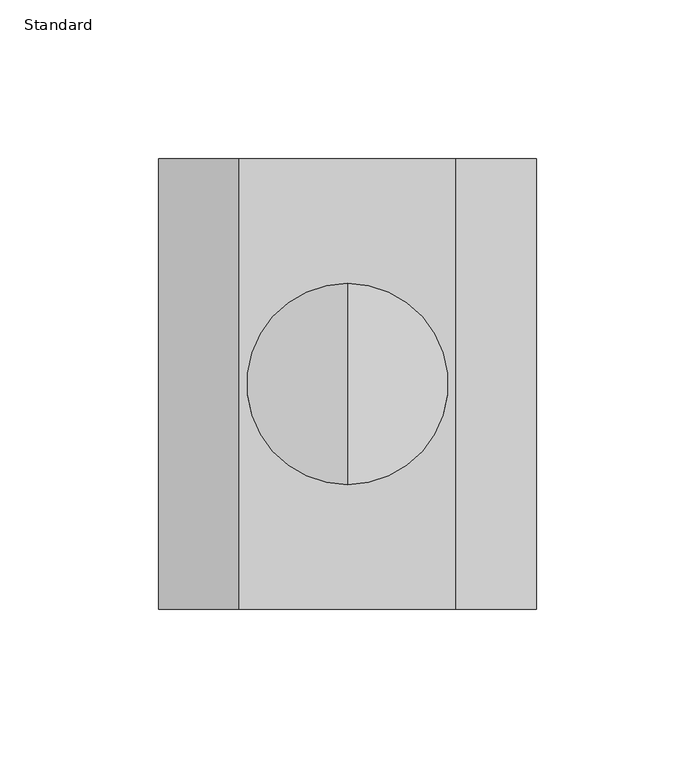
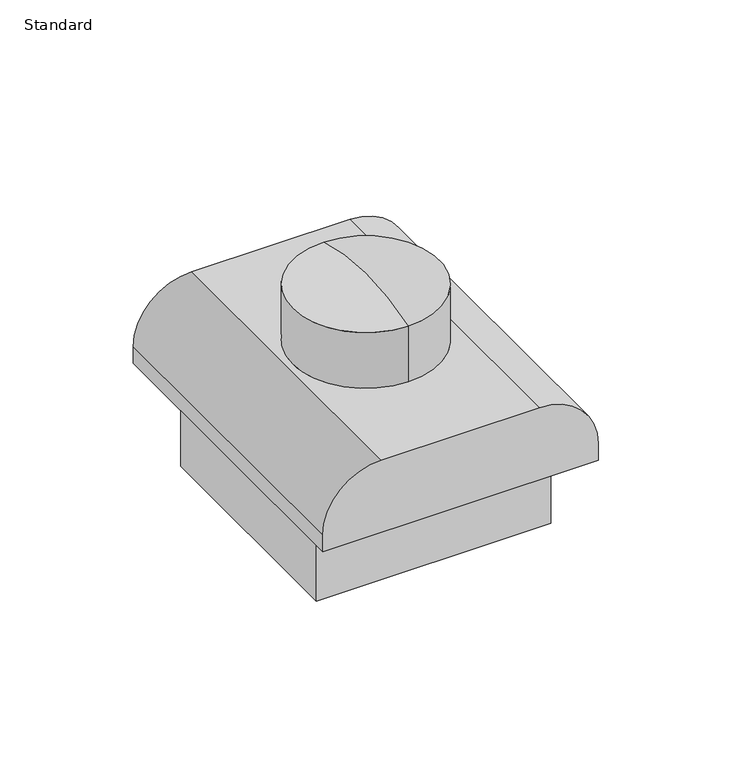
"""IFC4 building model written with IfcOpenShell, lengths in millimetres: alarm geometry, OMAHA - Fire Alarm Speaker Strobe (Single) - Wall Mounted CESAM : Standard."""

from ifc_helpers import new_model, si_unit, point, frame, origin, place, context, project, spatial, circle_curve, ellipse_curve, trimmed, source, transform, mapped, element, save
from ifc_brep_helpers import plane_surface, cylinder_surface, revolved_surface, advanced_brep


def standard_b09f5f23(model_context):
    return source(origin(), model_context, "Body", "AdvancedBrep", [
        advanced_brep(
        [(0.0, 31.75, 58.4116444), (0.0, 31.75, 33.02), (0.0, -31.75, 33.02), (0.0, -31.75, 58.4116444), (0.0, 0.0, 63.5), (59.69, 71.12, 0.0), (-59.69, 71.12, 0.0), (-59.69, 71.12, 7.62), (-34.29, 71.12, 33.02), (34.29, 71.12, 33.02), (59.69, 71.12, 7.62), (59.69, -71.12, 0.0), (59.69, -71.12, 7.62), (34.29, -71.12, 33.02), (-34.29, -71.12, 33.02), (-59.69, -71.12, 7.62), (-59.69, -71.12, 0.0), (50.8, -50.8, 0.0), (50.8, 50.8, 0.0), (-50.8, 50.8, 0.0), (-50.8, -50.8, 0.0), (50.8, -50.8, -38.1), (-50.8, -50.8, -38.1), (-50.8, 50.8, -38.1), (50.8, 50.8, -38.1)],
        [
            (0, 1),
            (1, 2, circle_curve(frame((0.0, 0.0, 33.02), z_axis=(0.0, 0.0, 1.0), x_axis=(0.0, -1.0, 0.0)), 31.75)),
            (2, 3),
            (3, 0, circle_curve(frame((0.0, 0.0, 58.4116444), z_axis=(0.0, 0.0, -1.0), x_axis=(0.0, -1.0, 0.0)), 31.75)),
            (2, 1, circle_curve(frame((0.0, 0.0, 33.02), z_axis=(0.0, 0.0, 1.0), x_axis=(0.0, -1.0, 0.0)), 31.75)),
            (0, 3, circle_curve(frame((0.0, 0.0, 58.4116444), z_axis=(0.0, 0.0, -1.0), x_axis=(0.0, -1.0, 0.0)), 31.75)),
            (3, 4, circle_curve(frame((0.0, 0.0, -38.1), z_axis=(-1.0, 0.0, 0.0), x_axis=(0.0, -1.0, 0.0)), 101.6)),
            (4, 0, circle_curve(frame((0.0, 0.0, -38.1), z_axis=(-1.0, 0.0, 0.0), x_axis=(0.0, 1.0, 0.0)), 101.6)),
            (5, 6),
            (6, 7),
            (7, 8, circle_curve(frame((-34.29, 71.12, 7.62), z_axis=(0.0, 1.0, 0.0), x_axis=(1.0, 0.0, 0.0)), 25.4)),
            (8, 9),
            (9, 10, circle_curve(frame((34.29, 71.12, 7.62), z_axis=(0.0, 1.0, 0.0), x_axis=(1.0, 0.0, 0.0)), 25.4)),
            (10, 5),
            (11, 12),
            (12, 13, circle_curve(frame((34.29, -71.12, 7.62), z_axis=(0.0, -1.0, 0.0), x_axis=(1.0, 0.0, 0.0)), 25.4)),
            (13, 14),
            (14, 15, circle_curve(frame((-34.29, -71.12, 7.62), z_axis=(0.0, -1.0, 0.0), x_axis=(1.0, 0.0, 0.0)), 25.4)),
            (15, 16),
            (16, 11),
            (10, 12),
            (11, 5),
            (9, 13),
            (8, 14),
            (7, 15),
            (6, 16),
            (17, 18),
            (18, 19),
            (19, 20),
            (20, 17),
            (21, 22),
            (22, 23),
            (23, 24),
            (24, 21),
            (21, 17),
            (20, 22),
            (19, 23),
            (18, 24),
        ],
        [
            cylinder_surface(frame((0.0, 0.0, 102.87), z_axis=(0.0, 0.0, 1.0), x_axis=(0.0, -1.0, 0.0)), 31.75),
            revolved_surface(trimmed(ellipse_curve(frame((0.0, 0.0, -38.1), z_axis=(-1.0, 0.0, 0.0), x_axis=(0.0, -1.0, 0.0)), 101.6, 101.6), [point((0.0, -31.75, 58.4116444))], [point((0.0, 0.0, 63.5))], True, "CARTESIAN"), (0.0, 0.0, 102.87), (0.0, 0.0, 1.0)),
            plane_surface(frame((59.69, 71.12, 0.0), z_axis=(0.0, 1.0, 0.0), x_axis=(0.0, 0.0, 1.0))),
            plane_surface(frame((59.69, -71.12, 0.0), z_axis=(0.0, -1.0, 0.0), x_axis=(0.0, 0.0, -1.0))),
            plane_surface(frame((59.69, 71.12, 0.0), z_axis=(1.0, 0.0, 0.0), x_axis=(0.0, -1.0, 0.0))),
            cylinder_surface(frame((34.29, -71.12, 7.62), z_axis=(0.0, 1.0, 0.0), x_axis=(1.0, 0.0, 0.0)), 25.4),
            plane_surface(frame((34.29, 71.12, 33.02), z_axis=(0.0, 0.0, 1.0), x_axis=(0.0, -1.0, 0.0))),
            cylinder_surface(frame((-34.29, -71.12, 7.62), z_axis=(0.0, 1.0, 0.0), x_axis=(1.0, 0.0, 0.0)), 25.4),
            plane_surface(frame((-59.69, 71.12, 7.62), z_axis=(-1.0, 0.0, 0.0), x_axis=(0.0, -1.0, 0.0))),
            plane_surface(frame((-59.69, 71.12, 0.0), z_axis=(0.0, 0.0, -1.0), x_axis=(0.0, -1.0, 0.0))),
            plane_surface(frame((-59.69, -50.8, -38.1), z_axis=(0.0, 0.0, -1.0), x_axis=(1.0, 0.0, 0.0))),
            plane_surface(frame((50.8, -50.8, 0.0), z_axis=(0.0, -1.0, 0.0), x_axis=(0.0, 0.0, -1.0))),
            plane_surface(frame((-50.8, -50.8, 0.0), z_axis=(-1.0, 0.0, 0.0), x_axis=(0.0, 0.0, -1.0))),
            plane_surface(frame((-50.8, 50.8, 0.0), z_axis=(0.0, 1.0, 0.0), x_axis=(0.0, 0.0, -1.0))),
            plane_surface(frame((50.8, 50.8, 0.0), z_axis=(1.0, 0.0, 0.0), x_axis=(0.0, 0.0, -1.0))),
        ],
        [
            (0, [[1, 2, 3, 4]]),
            (0, [[5, -1, 6, -3]]),
            (1, [[7, 8, -4]]),
            (1, [[-8, -7, -6]]),
            (2, [[9, 10, 11, 12, 13, 14]]),
            (3, [[15, 16, 17, 18, 19, 20]]),
            (4, [[21, -15, 22, -14]]),
            (5, [[23, -16, -21, -13]]),
            (6, [[24, -17, -23, -12], [-5, -2]]),
            (7, [[25, -18, -24, -11]]),
            (8, [[26, -19, -25, -10]]),
            (9, [[-22, -20, -26, -9], [27, 28, 29, 30]]),
            (10, [[31, 32, 33, 34]]),
            (11, [[35, -30, 36, -31]]),
            (12, [[-36, -29, 37, -32]]),
            (13, [[-37, -28, 38, -33]]),
            (14, [[-38, -27, -35, -34]]),
        ],
    ),
    ])


if __name__ == "__main__":
    model = new_model("IFC4")
    model_context = context("Model", 3, world=origin())
    ifc_project = project(units=[si_unit("LENGTHUNIT", "METRE", prefix="MILLI")], contexts=[model_context])
    site = spatial("IfcSite", under=ifc_project)
    building = spatial("IfcBuilding", under=site)
    placement = place(None, origin())
    standard_shape = standard_b09f5f23(model_context)
    element("IfcAlarm", 1, ObjectType="OMAHA - Fire Alarm Speaker Strobe (Single) - Wall Mounted CESAM : Standard", at=placement, inside=building, context=model_context, shape_type="MappedRepresentation", body=[
        mapped(standard_shape, transform((0.0, 0.0, 0.0), x_axis=(1.0, 0.0, 0.0), y_axis=(0.0, 1.0, 0.0), z_axis=(0.0, 0.0, 1.0))),
    ])
    save(model, "model.ifc")
